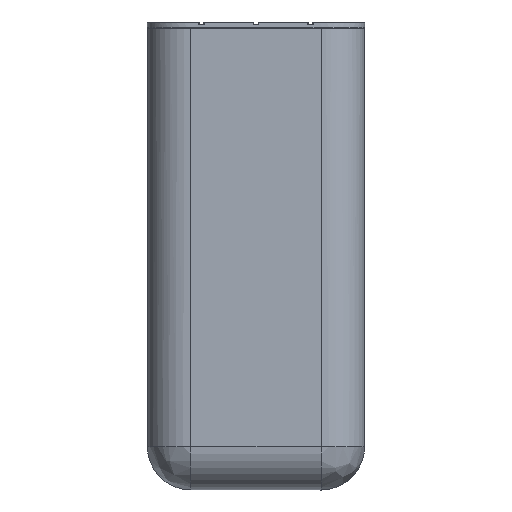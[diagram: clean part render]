
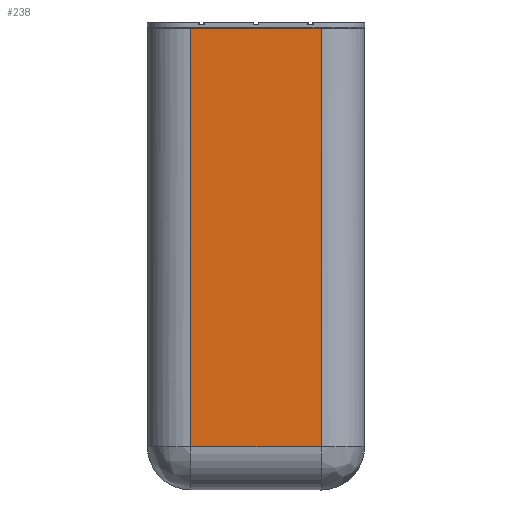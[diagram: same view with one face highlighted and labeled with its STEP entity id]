
A CAD part, left-side view. The second image highlights one B-rep face of the part: STEP entity #238.
In plain terms, the highlighted planar face has unit normal (-1, 0, 0).
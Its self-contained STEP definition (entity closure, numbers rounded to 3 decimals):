
#238=ADVANCED_FACE('',(#419),#2533,.T.);
#419=FACE_OUTER_BOUND('',#600,.T.);
#600=EDGE_LOOP('',(#1256,#1257,#1258,#1259));
#1256=ORIENTED_EDGE('',*,*,#1734,.T.);
#1257=ORIENTED_EDGE('',*,*,#1720,.F.);
#1258=ORIENTED_EDGE('',*,*,#1717,.F.);
#1259=ORIENTED_EDGE('',*,*,#1728,.T.);
#1717=EDGE_CURVE('',#2329,#2325,#2106,.T.);
#1720=EDGE_CURVE('',#2325,#2342,#2108,.T.);
#1728=EDGE_CURVE('',#2329,#2347,#2113,.T.);
#1734=EDGE_CURVE('',#2347,#2342,#2118,.T.);
#2106=B_SPLINE_CURVE_WITH_KNOTS('',1,(#8636,#8637),.UNSPECIFIED.,.F.,.F.,
(2,2),(80.,320.),.UNSPECIFIED.);
#2108=B_SPLINE_CURVE_WITH_KNOTS('',1,(#8643,#8644),.UNSPECIFIED.,.F.,.F.,
(2,2),(80.,780.838),.UNSPECIFIED.);
#2113=B_SPLINE_CURVE_WITH_KNOTS('',1,(#8662,#8663),.UNSPECIFIED.,.F.,.F.,
(2,2),(80.,780.838),.UNSPECIFIED.);
#2118=B_SPLINE_CURVE_WITH_KNOTS('',1,(#8675,#8676),.UNSPECIFIED.,.F.,.F.,
(2,2),(-590.204,-350.204),.UNSPECIFIED.);
#2325=VERTEX_POINT('',#8413);
#2329=VERTEX_POINT('',#8417);
#2342=VERTEX_POINT('',#8430);
#2347=VERTEX_POINT('',#8435);
#2533=PLANE('',#2747);
#2747=AXIS2_PLACEMENT_3D('',#8397,#2908,$);
#2908=DIRECTION('',(-1.,0.,0.));
#8397=CARTESIAN_POINT('',(-6058.,295.48,915.));
#8413=CARTESIAN_POINT('',(-6058.,535.48,80.));
#8417=CARTESIAN_POINT('',(-6058.,295.48,80.));
#8430=CARTESIAN_POINT('',(-6058.,535.48,850.));
#8435=CARTESIAN_POINT('',(-6058.,295.48,850.));
#8636=CARTESIAN_POINT('',(-6058.,295.48,80.));
#8637=CARTESIAN_POINT('',(-6058.,535.48,80.));
#8643=CARTESIAN_POINT('',(-6058.,535.48,80.));
#8644=CARTESIAN_POINT('',(-6058.,535.48,850.));
#8662=CARTESIAN_POINT('',(-6058.,295.48,80.));
#8663=CARTESIAN_POINT('',(-6058.,295.48,850.));
#8675=CARTESIAN_POINT('',(-6058.,295.48,850.));
#8676=CARTESIAN_POINT('',(-6058.,535.48,850.));
